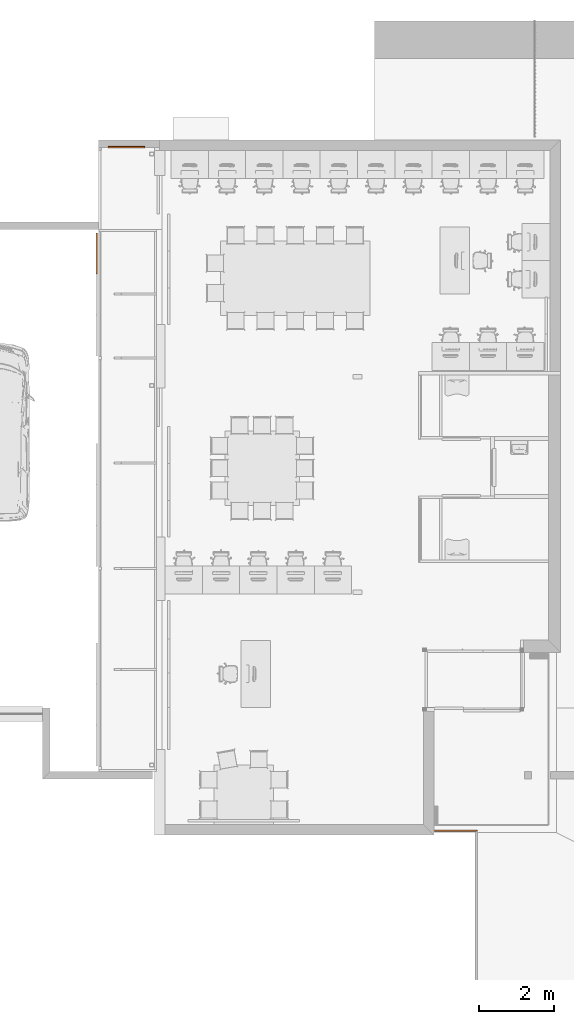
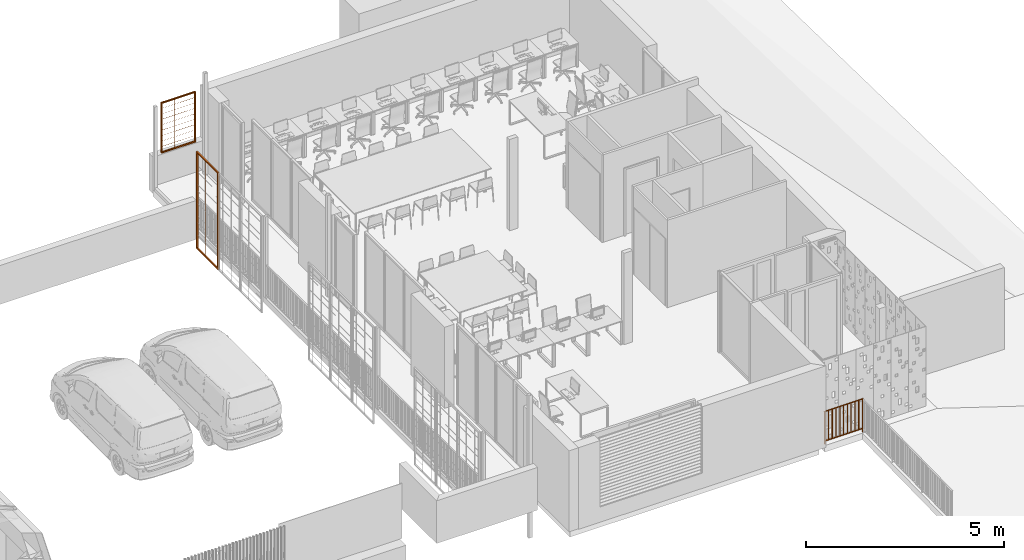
# One storey, part 47 of 51: 4 proxies.
"""IFC2X3 building model written with IfcOpenShell, lengths in metres."""

from ifc_helpers import new_model, entity, si_unit, converted_unit, derived_unit, direction, frame, frame_2d, origin, origin_2d_with_axis, place, context, subcontext, project, spatial, polyline, rectangle, outline, extrude, source, transform, mapped, material, type_object, type_shapes, element, save


model = new_model("IFC2X3")

# Units and contexts
model_context = context("Model", 3, precision=1e-05, world=origin(), true_north=direction((6.123031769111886e-17, 1.0)))
body_context = subcontext(model_context, "Body", "Model", "MODEL_VIEW")
ifc_project = project(units=[si_unit("LENGTHUNIT", "METRE"), si_unit("AREAUNIT", "SQUARE_METRE"), si_unit("VOLUMEUNIT", "CUBIC_METRE"), converted_unit("PLANEANGLEUNIT", "DEGREE", entity("IfcRatioMeasure", 0.017453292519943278), si_unit("PLANEANGLEUNIT", "RADIAN"), dimensions=[0, 0, 0, 0, 0, 0, 0]), si_unit("MASSUNIT", "GRAM", prefix="KILO"), derived_unit("MASSDENSITYUNIT", [(si_unit("MASSUNIT", "GRAM", prefix="KILO"), 1), (si_unit("LENGTHUNIT", "METRE"), -3)]), derived_unit("MOMENTOFINERTIAUNIT", [(si_unit("LENGTHUNIT", "METRE"), 4)]), si_unit("TIMEUNIT", "SECOND"), si_unit("FREQUENCYUNIT", "HERTZ"), si_unit("THERMODYNAMICTEMPERATUREUNIT", "DEGREE_CELSIUS"), derived_unit("THERMALTRANSMITTANCEUNIT", [(si_unit("MASSUNIT", "GRAM", prefix="KILO"), 1), (si_unit("THERMODYNAMICTEMPERATUREUNIT", "KELVIN"), -1), (si_unit("TIMEUNIT", "SECOND"), -3)]), derived_unit("THERMALCONDUCTANCEUNIT", [(si_unit("MASSUNIT", "GRAM", prefix="KILO"), 1), (si_unit("LENGTHUNIT", "METRE"), 1), (si_unit("THERMODYNAMICTEMPERATUREUNIT", "KELVIN"), -1), (si_unit("TIMEUNIT", "SECOND"), -3)]), derived_unit("VOLUMETRICFLOWRATEUNIT", [(si_unit("LENGTHUNIT", "METRE"), 3), (si_unit("TIMEUNIT", "SECOND"), -1)]), derived_unit("MASSFLOWRATEUNIT", [(si_unit("MASSUNIT", "GRAM", prefix="KILO"), 1), (si_unit("TIMEUNIT", "SECOND"), -1)]), derived_unit("ROTATIONALFREQUENCYUNIT", [(si_unit("TIMEUNIT", "SECOND"), -1)]), si_unit("ELECTRICCURRENTUNIT", "AMPERE"), si_unit("ELECTRICVOLTAGEUNIT", "VOLT"), si_unit("POWERUNIT", "WATT"), si_unit("FORCEUNIT", "NEWTON", prefix="KILO"), si_unit("ILLUMINANCEUNIT", "LUX"), si_unit("LUMINOUSFLUXUNIT", "LUMEN"), si_unit("LUMINOUSINTENSITYUNIT", "CANDELA"), derived_unit("USERDEFINED", [(si_unit("MASSUNIT", "GRAM", prefix="KILO"), -1), (si_unit("LENGTHUNIT", "METRE"), -2), (si_unit("TIMEUNIT", "SECOND"), 3), (si_unit("LUMINOUSFLUXUNIT", "LUMEN"), 1)]), derived_unit("USERDEFINED", [(si_unit("MASSUNIT", "GRAM", prefix="KILO"), 1), (si_unit("LENGTHUNIT", "METRE"), 3), (si_unit("TIMEUNIT", "SECOND"), -3), (si_unit("ELECTRICCURRENTUNIT", "AMPERE"), -2)]), derived_unit("USERDEFINED", [(si_unit("LENGTHUNIT", "METRE"), 2), (si_unit("TIMEUNIT", "SECOND"), -2)]), derived_unit("SOUNDPOWERUNIT", [(si_unit("MASSUNIT", "GRAM", prefix="KILO"), 1), (si_unit("LENGTHUNIT", "METRE"), 2), (si_unit("TIMEUNIT", "SECOND"), -3)]), derived_unit("SOUNDPRESSUREUNIT", [(si_unit("MASSUNIT", "GRAM", prefix="KILO"), 1), (si_unit("LENGTHUNIT", "METRE"), -1), (si_unit("TIMEUNIT", "SECOND"), -2)]), derived_unit("LINEARVELOCITYUNIT", [(si_unit("LENGTHUNIT", "METRE"), 1), (si_unit("TIMEUNIT", "SECOND"), -1)]), si_unit("PRESSUREUNIT", "PASCAL"), derived_unit("USERDEFINED", [(si_unit("LENGTHUNIT", "METRE"), -2), (si_unit("MASSUNIT", "GRAM", prefix="KILO"), 1), (si_unit("TIMEUNIT", "SECOND"), -2)]), derived_unit("LINEARFORCEUNIT", [(si_unit("MASSUNIT", "GRAM", prefix="KILO"), 1), (si_unit("LENGTHUNIT", "METRE"), 1), (si_unit("TIMEUNIT", "SECOND"), -2), (si_unit("LENGTHUNIT", "METRE"), -1)]), derived_unit("PLANARFORCEUNIT", [(si_unit("MASSUNIT", "GRAM", prefix="KILO"), 1), (si_unit("LENGTHUNIT", "METRE"), 1), (si_unit("TIMEUNIT", "SECOND"), -2), (si_unit("LENGTHUNIT", "METRE"), -2)]), derived_unit("SPECIFICHEATCAPACITYUNIT", [(si_unit("LENGTHUNIT", "METRE"), 2), (si_unit("TIMEUNIT", "SECOND"), -2), (si_unit("THERMODYNAMICTEMPERATUREUNIT", "KELVIN"), -1)]), derived_unit("VAPORPERMEABILITYUNIT", [(si_unit("TIMEUNIT", "SECOND"), 1), (si_unit("LENGTHUNIT", "METRE"), -1)]), derived_unit("DYNAMICVISCOSITYUNIT", [(si_unit("MASSUNIT", "GRAM", prefix="KILO"), 1), (si_unit("LENGTHUNIT", "METRE"), -1), (si_unit("TIMEUNIT", "SECOND"), -1)]), derived_unit("THERMALEXPANSIONCOEFFICIENTUNIT", [(si_unit("THERMODYNAMICTEMPERATUREUNIT", "KELVIN"), -1)])], contexts=[model_context])

# Site, building, storey
site_placement = place(None, origin())
site = spatial("IfcSite", under=ifc_project, at=site_placement, Name="Default", CompositionType="ELEMENT")
building_placement = place(site_placement, origin())
building = spatial("IfcBuilding", under=site, at=building_placement, CompositionType="ELEMENT")
storey_placement = place(building_placement, frame((0.0, 0.0, 3.06)))
storey = spatial("IfcBuildingStorey", under=building, at=storey_placement, Name="ÉTAGE", CompositionType="ELEMENT", Elevation=3.06)

# Proxies
ifc_material_1 = material(Name="Peinture - Gris foncé")
building_element_proxy_type_1 = type_object("IfcBuildingElementProxyType", Name="Symb-0004", PredefinedType="NOTDEFINED", material=ifc_material_1)
shared_shape_1 = source(origin(), body_context, "Body", "SweptSolid", [
    extrude(outline(polyline([(-0.0011180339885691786, -0.0022360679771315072), (0.0007453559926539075, -0.002236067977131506), (0.0018633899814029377, -0.001863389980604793), (0.0026087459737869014, -0.00037267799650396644), (0.0022360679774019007, 0.0007453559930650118), (0.0011180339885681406, 0.0022360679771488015), (-0.0007453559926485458, 0.002236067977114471), (-0.0018633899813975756, 0.0018633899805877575), (-0.0026087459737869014, 0.00037267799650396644), (-0.0022360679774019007, -0.0007453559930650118), (-0.0011180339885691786, -0.0022360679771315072)])), frame((141.12825214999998, 26.0372352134, 5.229999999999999), z_axis=(0.0, 0.0, 1.0), x_axis=(-0.05991526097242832, -0.9982034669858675, 0.0)), (0.0, 0.0, 1.0), 1.5100000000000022),
    extrude(outline(polyline([(-0.0011180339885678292, -0.002236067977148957), (0.0007453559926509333, -0.0022360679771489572), (0.001863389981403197, -0.0018633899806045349), (0.0026087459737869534, -0.0003726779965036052), (0.0022360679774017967, 0.0007453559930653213), (0.0011180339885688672, 0.002236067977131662), (-0.000745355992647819, 0.002236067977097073), (-0.001863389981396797, 0.001863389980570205), (-0.0026087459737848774, 0.00037267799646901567), (-0.0022360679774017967, -0.0007453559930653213), (-0.0011180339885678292, -0.002236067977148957)])), frame((140.93225214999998, 26.0372352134, 5.229999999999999), z_axis=(0.0, 0.0, 1.0), x_axis=(-0.059915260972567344, -0.9982034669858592, 0.0)), (0.0, 0.0, 1.0), 1.5100000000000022),
    extrude(outline(polyline([(-0.0011180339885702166, -0.0022360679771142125), (0.0007453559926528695, -0.002236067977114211), (0.0018633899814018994, -0.001863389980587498), (0.0026087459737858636, -0.00037267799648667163), (0.002236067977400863, 0.0007453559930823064), (0.0011180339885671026, 0.0022360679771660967), (-0.0007453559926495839, 0.0022360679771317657), (-0.0018633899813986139, 0.0018633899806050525), (-0.0026087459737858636, 0.00037267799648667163), (-0.002236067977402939, -0.000745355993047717), (-0.0011180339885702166, -0.0022360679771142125)])), frame((140.73625214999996, 26.0372352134, 5.229999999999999), z_axis=(0.0, 0.0, 1.0), x_axis=(-0.05991526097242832, -0.9982034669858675, 0.0)), (0.0, 0.0, 1.0), 1.5100000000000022),
    extrude(outline(polyline([(-0.001118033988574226, -0.0022360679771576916), (0.000745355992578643, -0.002236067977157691), (0.0018633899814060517, -0.0018633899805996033), (0.0026087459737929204, -0.00037267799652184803), (0.002236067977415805, 0.0007453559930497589), (0.0011180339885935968, 0.0022360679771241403), (-0.0007453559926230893, 0.0022360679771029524), (-0.001863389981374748, 0.0018633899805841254), (-0.002608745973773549, 0.0003726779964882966), (-0.0022360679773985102, -0.0007453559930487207), (-0.001118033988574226, -0.0022360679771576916)])), frame((140.54025215, 26.037235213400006, 5.229999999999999), z_axis=(0.0, 0.0, 1.0), x_axis=(-0.05991526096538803, -0.99820346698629, 0.0)), (0.0, 0.0, 1.0), 1.5100000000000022),
    extrude(outline(polyline([(-0.001118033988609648, -0.0022360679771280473), (0.0007453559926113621, -0.0022360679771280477), (0.0018633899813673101, -0.0018633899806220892), (0.0026087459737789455, -0.00037267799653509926), (0.0022360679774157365, 0.0007453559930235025), (0.00111803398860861, 0.002236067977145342), (-0.0007453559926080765, 0.002236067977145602), (-0.0018633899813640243, 0.0018633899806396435), (-0.0026087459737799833, 0.000372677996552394), (-0.0022360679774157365, -0.0007453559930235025), (-0.001118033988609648, -0.0022360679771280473)])), frame((140.34425214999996, 26.0372352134, 5.229999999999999), z_axis=(0.0, 0.0, 1.0), x_axis=(-0.059915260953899, -0.9982034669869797, 0.0)), (0.0, 0.0, 1.0), 1.5100000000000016),
    extrude(rectangle(XDim=1.0000000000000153, YDim=0.03999999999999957, at=frame_2d((1.734723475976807e-14, 0.0), x_axis=(1.0, 0.0))), frame((140.65075215, 26.0372352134, 6.74), z_axis=(0.0, 0.0, 1.0), x_axis=(-1.0, 0.0, 0.0)), (0.0, 0.0, 1.0), 0.019999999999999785),
    extrude(rectangle(XDim=1.0000000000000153, YDim=0.03999999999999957, at=frame_2d((1.734723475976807e-14, 0.0), x_axis=(1.0, 0.0))), frame((140.65075215, 26.0372352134, 5.209999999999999), z_axis=(0.0, 0.0, 1.0), x_axis=(-1.0, 0.0, 0.0)), (0.0, 0.0, 1.0), 0.020000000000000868),
    extrude(rectangle(XDim=0.02000000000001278, YDim=0.03999999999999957, at=frame_2d((8.663209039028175e-15, 0.0), x_axis=(1.0, 0.0))), frame((141.14075215, 26.0372352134, 5.23), z_axis=(0.0, 0.0, 1.0), x_axis=(-1.0, 0.0, 0.0)), (0.0, 0.0, 1.0), 1.51),
    extrude(rectangle(XDim=0.02000000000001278, YDim=0.03999999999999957, at=frame_2d((-8.663209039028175e-15, 0.0), x_axis=(1.0, 0.0))), frame((140.16075214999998, 26.0372352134, 5.23), z_axis=(0.0, 0.0, 1.0), x_axis=(-1.0, 0.0, 0.0)), (0.0, 0.0, 1.0), 1.51),
])
type_shapes(building_element_proxy_type_1, [shared_shape_1])
proxy_1_placement = place(storey_placement, frame((0.0, 0.0, -3.06)))
element("IfcBuildingElementProxy", 1, at=proxy_1_placement, inside=storey, type_object=building_element_proxy_type_1, material=ifc_material_1, Name="Symb-0004 286920:Symb-0004 286920", ObjectType="Symb-0004 286920:Symb-0004 286920", context=body_context, shape_type="MappedRepresentation", body=[
    mapped(shared_shape_1, transform((0.0, 0.0, 0.0), scale=1.0)),
])
ifc_material_2 = material(Name="Peinture - Anthracite")
building_element_proxy_type_2 = type_object("IfcBuildingElementProxyType", Name="Symb-0003", PredefinedType="NOTDEFINED", material=ifc_material_2)
shared_shape_2 = source(origin(), body_context, "Body", "SweptSolid", [
    extrude(rectangle(XDim=0.03999999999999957, YDim=0.0099999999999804, at=frame_2d((0.0, -8.66277535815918e-15), x_axis=(1.0, 0.0))), frame((149.920752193, 7.69720948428, 4.38), z_axis=(0.0, 0.0, 1.0), x_axis=(0.0, -1.0, 0.0)), (0.0, 0.0, 1.0), 0.9),
    extrude(rectangle(XDim=0.03999999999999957, YDim=0.009999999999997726, at=origin_2d_with_axis()), frame((149.810752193, 7.69720948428, 4.38), z_axis=(0.0, 0.0, 1.0), x_axis=(0.0, -1.0, 0.0)), (0.0, 0.0, 1.0), 0.9),
    extrude(rectangle(XDim=0.03999999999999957, YDim=0.0099999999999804, at=frame_2d((0.0, -8.66277535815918e-15), x_axis=(1.0, 0.0))), frame((149.700752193, 7.69720948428, 4.38), z_axis=(0.0, 0.0, 1.0), x_axis=(0.0, -1.0, 0.0)), (0.0, 0.0, 1.0), 0.9),
    extrude(rectangle(XDim=0.03999999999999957, YDim=0.009999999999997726, at=frame_2d((0.0, -1.7325984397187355e-14), x_axis=(1.0, 0.0))), frame((149.59075219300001, 7.69720948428, 4.38), z_axis=(0.0, 0.0, 1.0), x_axis=(0.0, -1.0, 0.0)), (0.0, 0.0, 1.0), 0.9),
    extrude(rectangle(XDim=0.03999999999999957, YDim=0.009999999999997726, at=frame_2d((0.0, 1.7325984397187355e-14), x_axis=(1.0, 0.0))), frame((149.48075219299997, 7.69720948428, 4.38), z_axis=(0.0, 0.0, 1.0), x_axis=(0.0, -1.0, 0.0)), (0.0, 0.0, 1.0), 0.9),
    extrude(rectangle(XDim=0.03999999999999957, YDim=0.009999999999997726, at=origin_2d_with_axis()), frame((149.37075219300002, 7.69720948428, 4.38), z_axis=(0.0, 0.0, 1.0), x_axis=(0.0, -1.0, 0.0)), (0.0, 0.0, 1.0), 0.9),
    extrude(rectangle(XDim=0.03999999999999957, YDim=0.009999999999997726, at=origin_2d_with_axis()), frame((149.260752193, 7.69720948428, 4.38), z_axis=(0.0, 0.0, 1.0), x_axis=(0.0, -1.0, 0.0)), (0.0, 0.0, 1.0), 0.9),
    extrude(rectangle(XDim=0.03999999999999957, YDim=0.0099999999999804, at=frame_2d((0.0, -8.66277535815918e-15), x_axis=(1.0, 0.0))), frame((149.15075219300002, 7.69720948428, 4.38), z_axis=(0.0, 0.0, 1.0), x_axis=(0.0, -1.0, 0.0)), (0.0, 0.0, 1.0), 0.9),
    extrude(rectangle(XDim=0.03999999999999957, YDim=0.009999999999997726, at=origin_2d_with_axis()), frame((149.040752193, 7.69720948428, 4.38), z_axis=(0.0, 0.0, 1.0), x_axis=(0.0, -1.0, 0.0)), (0.0, 0.0, 1.0), 0.9),
    extrude(rectangle(XDim=0.03999999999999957, YDim=1.090000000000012, at=frame_2d((0.0, -8.659739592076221e-15), x_axis=(1.0, 0.0))), frame((149.480752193, 7.69720948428, 4.37), z_axis=(0.0, 0.0, 1.0), x_axis=(0.0, -1.0, 0.0)), (0.0, 0.0, 1.0), 0.009999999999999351),
    extrude(rectangle(XDim=0.03999999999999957, YDim=0.009999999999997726, at=origin_2d_with_axis()), frame((150.030752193, 7.69720948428, 4.27), z_axis=(0.0, 0.0, 1.0), x_axis=(0.0, -1.0, 0.0)), (0.0, 0.0, 1.0), 1.01),
    extrude(rectangle(XDim=0.03999999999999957, YDim=0.010000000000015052, at=frame_2d((0.0, 8.663209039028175e-15), x_axis=(1.0, 0.0))), frame((148.930752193, 7.69720948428, 4.27), z_axis=(0.0, 0.0, 1.0), x_axis=(0.0, -1.0, 0.0)), (0.0, 0.0, 1.0), 1.01),
    extrude(outline(polyline([(-0.019999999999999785, -0.570000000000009), (0.019999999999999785, -0.570000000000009), (0.019999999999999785, 0.5500000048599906), (-0.019999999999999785, 0.5899999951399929), (-0.019999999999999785, -0.570000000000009)])), frame((149.480752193, 7.69720948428, 5.279999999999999), z_axis=(0.0, 0.0, 1.0), x_axis=(0.0, -1.0, 0.0)), (0.0, 0.0, 1.0), 0.009999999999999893),
])
type_shapes(building_element_proxy_type_2, [shared_shape_2])
proxy_2_placement = place(storey_placement, frame((0.0, 0.0, -3.06)))
element("IfcBuildingElementProxy", 2, at=proxy_2_placement, inside=storey, type_object=building_element_proxy_type_2, material=ifc_material_2, Name="Symb-0003 297244:Symb-0003 297244", ObjectType="Symb-0003 297244:Symb-0003 297244", context=body_context, shape_type="MappedRepresentation", body=[
    mapped(shared_shape_2, transform((0.0, 0.0, 0.0), scale=1.0)),
])
building_element_proxy_type_3 = type_object("IfcBuildingElementProxyType", Name="Symb-0003", PredefinedType="NOTDEFINED", material=ifc_material_1)
shared_shape_3 = source(origin(), body_context, "Body", "SweptSolid", [
    extrude(outline(polyline([(-0.0011180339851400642, -0.0022360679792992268), (0.0007453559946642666, -0.002236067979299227), (0.0018633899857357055, -0.001863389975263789), (0.0026087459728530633, -0.0003726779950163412), (0.002236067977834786, 0.0007453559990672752), (0.0011180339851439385, 0.0022360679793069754), (-0.0007453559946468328, 0.002236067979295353), (-0.0018633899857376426, 0.0018633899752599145), (-0.002608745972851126, 0.00037267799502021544), (-0.0022360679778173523, -0.0007453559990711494), (-0.0011180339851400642, -0.0022360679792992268)])), frame((139.86075228, 22.679709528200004, 3.81), z_axis=(0.0, 0.0, 1.0), x_axis=(-0.8944271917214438, -0.4472135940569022, 0.0)), (0.0, 0.0, 1.0), 2.9200000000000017),
    extrude(outline(polyline([(-0.0011180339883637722, -0.002236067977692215), (0.0007453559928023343, -0.002236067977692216), (0.0018633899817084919, -0.0018633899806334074), (0.002608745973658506, -0.00037267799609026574), (0.002236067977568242, 0.0007453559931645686), (0.0011180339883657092, 0.002236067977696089), (-0.0007453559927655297, 0.0022360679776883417), (-0.0018633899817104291, 0.0018633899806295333), (-0.002608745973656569, 0.00037267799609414), (-0.002236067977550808, -0.0007453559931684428), (-0.0011180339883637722, -0.002236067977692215)])), frame((139.86075228, 22.891709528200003, 3.81), z_axis=(0.0, 0.0, 1.0), x_axis=(-0.8944271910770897, -0.4472135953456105, 0.0)), (0.0, 0.0, 1.0), 2.920000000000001),
    extrude(outline(polyline([(-0.0011180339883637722, -0.002236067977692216), (0.0007453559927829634, -0.0022360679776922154), (0.0018633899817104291, -0.0018633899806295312), (0.002608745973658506, -0.00037267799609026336), (0.002236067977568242, 0.0007453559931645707), (0.0011180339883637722, 0.002236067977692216), (-0.0007453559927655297, 0.0022360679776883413), (-0.0018633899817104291, 0.0018633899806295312), (-0.002608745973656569, 0.0003726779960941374), (-0.002236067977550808, -0.0007453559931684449), (-0.0011180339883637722, -0.002236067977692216)])), frame((139.86075228, 23.103709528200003, 3.81), z_axis=(0.0, 0.0, 1.0), x_axis=(-0.8944271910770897, -0.4472135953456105, 0.0)), (0.0, 0.0, 1.0), 2.920000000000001),
    extrude(outline(polyline([(-0.0011180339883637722, -0.002236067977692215), (0.0007453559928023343, -0.002236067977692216), (0.0018633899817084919, -0.0018633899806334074), (0.002608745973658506, -0.00037267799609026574), (0.002236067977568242, 0.0007453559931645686), (0.0011180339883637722, 0.002236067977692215), (-0.0007453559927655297, 0.0022360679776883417), (-0.0018633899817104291, 0.0018633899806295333), (-0.002608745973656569, 0.00037267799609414), (-0.002236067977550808, -0.0007453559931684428), (-0.0011180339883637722, -0.002236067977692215)])), frame((139.86075228, 23.315709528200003, 3.81), z_axis=(0.0, 0.0, 1.0), x_axis=(-0.8944271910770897, -0.4472135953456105, 0.0)), (0.0, 0.0, 1.0), 2.920000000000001),
    extrude(outline(polyline([(-0.0011180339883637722, -0.002236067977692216), (0.0007453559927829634, -0.0022360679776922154), (0.0018633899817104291, -0.0018633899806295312), (0.002608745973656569, -0.0003726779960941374), (0.002236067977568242, 0.0007453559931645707), (0.0011180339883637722, 0.002236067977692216), (-0.0007453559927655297, 0.0022360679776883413), (-0.0018633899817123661, 0.001863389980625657), (-0.002608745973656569, 0.0003726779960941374), (-0.002236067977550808, -0.0007453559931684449), (-0.0011180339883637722, -0.002236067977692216)])), frame((139.86075228, 23.527709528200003, 3.81), z_axis=(0.0, 0.0, 1.0), x_axis=(-0.8944271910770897, -0.4472135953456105, 0.0)), (0.0, 0.0, 1.0), 2.920000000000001),
    extrude(rectangle(XDim=1.1000000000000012, YDim=0.039999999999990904, at=origin_2d_with_axis()), frame((139.86075227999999, 23.1872095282, 6.73), z_axis=(0.0, 0.0, 1.0), x_axis=(0.0, 1.0, 0.0)), (0.0, 0.0, 1.0), 0.03999999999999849),
    extrude(rectangle(XDim=1.1000000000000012, YDim=0.039999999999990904, at=origin_2d_with_axis()), frame((139.86075227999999, 23.1872095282, 3.7699999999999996), z_axis=(0.0, 0.0, 1.0), x_axis=(0.0, 1.0, 0.0)), (0.0, 0.0, 1.0), 0.04000000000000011),
    extrude(rectangle(XDim=0.03999999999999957, YDim=0.039999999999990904, at=origin_2d_with_axis()), frame((139.86075227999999, 22.6572095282, 3.8099999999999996), z_axis=(0.0, 0.0, 1.0), x_axis=(0.0, 1.0, 0.0)), (0.0, 0.0, 1.0), 2.9200000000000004),
    extrude(rectangle(XDim=0.03999999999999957, YDim=0.039999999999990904, at=origin_2d_with_axis()), frame((139.86075227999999, 23.7172095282, 3.8099999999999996), z_axis=(0.0, 0.0, 1.0), x_axis=(0.0, 1.0, 0.0)), (0.0, 0.0, 1.0), 2.9200000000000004),
])
type_shapes(building_element_proxy_type_3, [shared_shape_3])
proxy_3_placement = place(storey_placement, frame((0.0, 0.0, -3.06)))
element("IfcBuildingElementProxy", 3, at=proxy_3_placement, inside=storey, type_object=building_element_proxy_type_3, material=ifc_material_1, Name="Symb-0003 464637:Symb-0003 464637", ObjectType="Symb-0003 464637:Symb-0003 464637", context=body_context, shape_type="MappedRepresentation", body=[
    mapped(shared_shape_3, transform((0.0, 0.0, 0.0), scale=1.0)),
])
building_element_proxy_type_4 = type_object("IfcBuildingElementProxyType", Name="Symb-0004", PredefinedType="NOTDEFINED", material=ifc_material_1)
shared_shape_4 = source(origin(), body_context, "Body", "SweptSolid", [
    extrude(outline(polyline([(-0.001118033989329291, -0.0022360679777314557), (0.0007453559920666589, -0.002236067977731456), (0.0018633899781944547, -0.0018633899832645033), (0.0026087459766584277, -0.0003726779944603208), (0.002236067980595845, 0.0007453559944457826), (0.001118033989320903, 0.002236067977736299), (-0.0007453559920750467, 0.002236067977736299), (-0.001863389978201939, 0.0018633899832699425), (-0.002608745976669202, 0.00037267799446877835), (-0.0022360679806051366, -0.0007453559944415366), (-0.001118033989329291, -0.0022360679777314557)])), frame((140.17075215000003, 26.057235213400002, 6.737500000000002), z_axis=(1.0, 0.0, 0.0), x_axis=(0.0, 0.550989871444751, 0.8345119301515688)), (0.0, 0.0, 1.0), 0.9599999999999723),
    extrude(outline(polyline([(-0.0011180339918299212, -0.002236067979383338), (0.0007453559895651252, -0.0022360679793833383), (0.0018633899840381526, -0.0018633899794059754), (0.0026087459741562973, -0.0003726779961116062), (0.00223606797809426, 0.0007453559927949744), (0.0011180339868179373, 0.0022360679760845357), (-0.0007453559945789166, 0.002236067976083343), (-0.001863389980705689, 0.001863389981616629), (-0.00260874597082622, 0.00037267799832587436), (-0.0022360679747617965, -0.0007453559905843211), (-0.0011180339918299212, -0.002236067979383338)])), frame((140.17075215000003, 26.057235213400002, 6.5697222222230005), z_axis=(1.0, 0.0, 0.0), x_axis=(0.0, 0.5509898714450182, 0.8345119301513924)), (0.0, 0.0, 1.0), 0.9599999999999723),
    extrude(outline(polyline([(-0.0011180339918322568, -0.002236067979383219), (0.0007453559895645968, -0.0022360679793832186), (0.001863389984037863, -0.001863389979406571), (0.0026087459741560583, -0.0003726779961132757), (0.0022360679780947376, 0.0007453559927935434), (0.001118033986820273, 0.0022360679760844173), (-0.0007453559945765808, 0.002236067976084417), (-0.0018633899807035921, 0.0018633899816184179), (-0.0026087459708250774, 0.00037267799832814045), (-0.00223606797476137, -0.0007453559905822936), (-0.0011180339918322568, -0.002236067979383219)])), frame((140.17075215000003, 26.057235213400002, 6.401944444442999), z_axis=(1.0, 0.0, 0.0), x_axis=(0.0, 0.5509898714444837, 0.8345119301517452)), (0.0, 0.0, 1.0), 0.9599999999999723),
    extrude(outline(polyline([(-0.0011180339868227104, -0.0022360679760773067), (0.000745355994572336, -0.0022360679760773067), (0.001863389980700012, -0.0018633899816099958), (0.0026087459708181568, -0.00037267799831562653), (0.0022360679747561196, 0.0007453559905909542), (0.001118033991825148, 0.0022360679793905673), (-0.0007453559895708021, 0.0022360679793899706), (-0.001863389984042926, 0.0018633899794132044), (-0.002608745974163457, 0.0003726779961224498), (-0.002236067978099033, -0.0007453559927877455), (-0.0011180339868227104, -0.0022360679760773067)])), frame((140.17075215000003, 26.057235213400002, 6.234166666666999), z_axis=(1.0, 0.0, 0.0), x_axis=(0.0, 0.5509898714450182, 0.8345119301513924)), (0.0, 0.0, 1.0), 0.9599999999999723),
    extrude(outline(polyline([(-0.0011180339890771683, -0.002236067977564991), (0.0007453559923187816, -0.002236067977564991), (0.0018633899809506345, -0.0018633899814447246), (0.0026087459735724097, -0.00037267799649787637), (0.0022360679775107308, 0.0007453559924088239), (0.0011180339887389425, 0.002236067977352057), (-0.0007453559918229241, 0.002236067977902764), (-0.0018633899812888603, 0.00186338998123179), (-0.0026087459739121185, 0.0003726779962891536), (-0.0022360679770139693, -0.0007453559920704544), (-0.0011180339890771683, -0.002236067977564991)])), frame((140.17075215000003, 26.057235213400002, 6.066388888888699), z_axis=(1.0, 0.0, 0.0), x_axis=(0.0, 0.550989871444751, 0.8345119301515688)), (0.0, 0.0, 1.0), 0.9599999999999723),
    extrude(outline(polyline([(-0.0011180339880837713, -0.002236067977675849), (0.0007453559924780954, -0.0022360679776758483), (0.0018633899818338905, -0.0018633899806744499), (0.0026087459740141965, -0.00037267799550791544), (0.002236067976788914, 0.0007453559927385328), (0.0011180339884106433, 0.0022360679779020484), (-0.0007453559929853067, 0.0022360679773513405), (-0.0018633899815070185, 0.0018633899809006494), (-0.0026087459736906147, 0.00037267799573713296), (-0.002236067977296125, -0.0007453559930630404), (-0.0011180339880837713, -0.002236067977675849)])), frame((140.17075215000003, 26.057235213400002, 5.8986111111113), z_axis=(1.0, 0.0, 0.0), x_axis=(0.0, 0.5509898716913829, 0.8345119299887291)), (0.0, 0.0, 1.0), 0.9599999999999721),
    extrude(outline(polyline([(-0.001118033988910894, -0.0022360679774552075), (0.0007453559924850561, -0.002236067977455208), (0.0018633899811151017, -0.0018633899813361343), (0.002608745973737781, -0.00037267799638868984), (0.0022360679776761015, 0.0007453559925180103), (0.0011180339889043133, 0.002236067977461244), (-0.0007453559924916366, 0.002236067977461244), (-0.001863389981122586, 0.0018633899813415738), (-0.0026087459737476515, 0.0003726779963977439), (-0.0022360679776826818, -0.0007453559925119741), (-0.001118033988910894, -0.0022360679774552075)])), frame((140.17075215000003, 26.057235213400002, 5.730833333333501), z_axis=(1.0, 0.0, 0.0), x_axis=(0.0, 0.550989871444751, 0.8345119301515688)), (0.0, 0.0, 1.0), 0.9599999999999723),
    extrude(outline(polyline([(-0.0011180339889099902, -0.002236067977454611), (0.0007453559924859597, -0.002236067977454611), (0.0018633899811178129, -0.0018633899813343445), (0.002608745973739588, -0.00037267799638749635), (0.0022360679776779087, 0.0007453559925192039), (0.0011180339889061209, 0.002236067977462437), (-0.0007453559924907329, 0.0022360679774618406), (-0.0018633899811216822, 0.00186338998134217), (-0.0026087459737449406, 0.0003726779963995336), (-0.0022360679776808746, -0.0007453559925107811), (-0.0011180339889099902, -0.002236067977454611)])), frame((140.17075215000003, 26.057235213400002, 5.563055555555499), z_axis=(1.0, 0.0, 0.0), x_axis=(0.0, 0.550989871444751, 0.8345119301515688)), (0.0, 0.0, 1.0), 0.9599999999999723),
    extrude(outline(polyline([(-0.0011180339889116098, -0.0022360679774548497), (0.0007453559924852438, -0.0022360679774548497), (0.0018633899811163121, -0.001863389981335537), (0.0026087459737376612, -0.00037267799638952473), (0.002236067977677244, 0.0007453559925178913), (0.0011180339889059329, 0.0022360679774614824), (-0.000745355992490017, 0.002236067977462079), (-0.001863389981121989, 0.0018633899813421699), (-0.002608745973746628, 0.0003726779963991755), (-0.0022360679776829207, -0.0007453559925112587), (-0.0011180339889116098, -0.0022360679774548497)])), frame((140.17075215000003, 26.057235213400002, 5.3952777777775), z_axis=(1.0, 0.0, 0.0), x_axis=(0.0, 0.5509898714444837, 0.8345119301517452)), (0.0, 0.0, 1.0), 0.9599999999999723),
    extrude(rectangle(XDim=1.0000000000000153, YDim=0.03999999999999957, at=frame_2d((1.734723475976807e-14, 0.0), x_axis=(1.0, 0.0))), frame((140.65075215, 26.0572352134, 6.74), z_axis=(0.0, 0.0, 1.0), x_axis=(-1.0, 0.0, 0.0)), (0.0, 0.0, 1.0), 0.019999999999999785),
    extrude(rectangle(XDim=1.0000000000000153, YDim=0.03999999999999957, at=frame_2d((1.734723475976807e-14, 0.0), x_axis=(1.0, 0.0))), frame((140.65075215, 26.0572352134, 5.209999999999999), z_axis=(0.0, 0.0, 1.0), x_axis=(-1.0, 0.0, 0.0)), (0.0, 0.0, 1.0), 0.020000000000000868),
    extrude(rectangle(XDim=0.02000000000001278, YDim=0.03999999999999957, at=frame_2d((8.663209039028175e-15, 0.0), x_axis=(1.0, 0.0))), frame((141.14075215, 26.0572352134, 5.23), z_axis=(0.0, 0.0, 1.0), x_axis=(-1.0, 0.0, 0.0)), (0.0, 0.0, 1.0), 1.51),
    extrude(rectangle(XDim=0.02000000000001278, YDim=0.03999999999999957, at=frame_2d((-8.663209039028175e-15, 0.0), x_axis=(1.0, 0.0))), frame((140.16075214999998, 26.0572352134, 5.23), z_axis=(0.0, 0.0, 1.0), x_axis=(-1.0, 0.0, 0.0)), (0.0, 0.0, 1.0), 1.51),
])
type_shapes(building_element_proxy_type_4, [shared_shape_4])
proxy_4_placement = place(storey_placement, frame((0.0, 0.0, -3.06)))
element("IfcBuildingElementProxy", 4, at=proxy_4_placement, inside=storey, type_object=building_element_proxy_type_4, material=ifc_material_1, Name="Symb-0004 466004:Symb-0004 466004", ObjectType="Symb-0004 466004:Symb-0004 466004", context=body_context, shape_type="MappedRepresentation", body=[
    mapped(shared_shape_4, transform((0.0, 0.0, 0.0), scale=1.0)),
])

save(model, "model.ifc")
